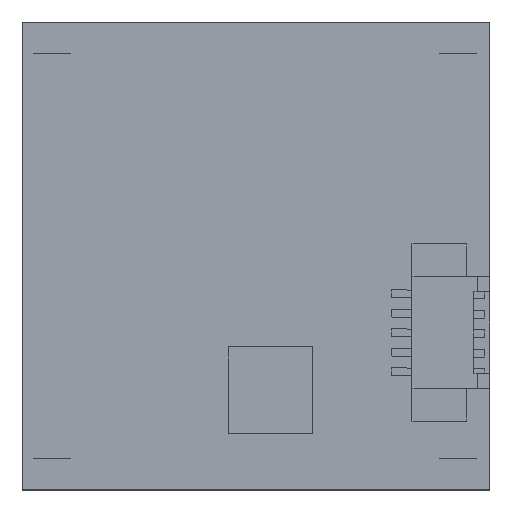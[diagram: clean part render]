
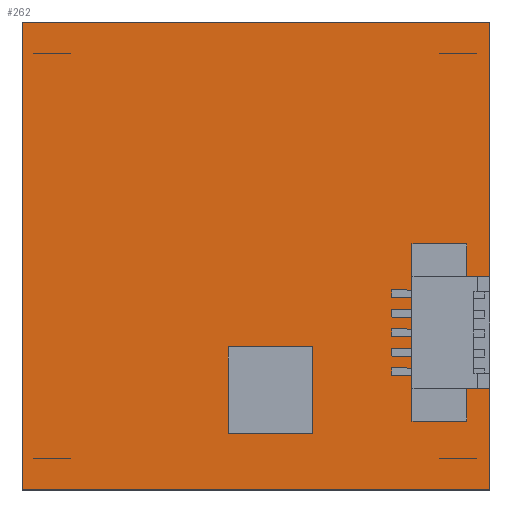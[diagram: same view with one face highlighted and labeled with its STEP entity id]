
A CAD part, top view. The second image highlights one B-rep face of the part: STEP entity #262.
In plain terms, the highlighted planar face has unit normal (0, 0, 1).
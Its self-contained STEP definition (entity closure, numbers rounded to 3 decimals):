
#13=FACE_BOUND('',#493,.T.);
#14=FACE_BOUND('',#494,.T.);
#15=FACE_BOUND('',#495,.T.);
#16=FACE_BOUND('',#496,.T.);
#117=(
BOUNDED_CURVE()
B_SPLINE_CURVE(2,(#6754,#6755,#6756,#6757,#6758),.UNSPECIFIED.,.F.,.F.)
B_SPLINE_CURVE_WITH_KNOTS((3,2,3),(0.,1.885,3.77),
 .UNSPECIFIED.)
CURVE()
GEOMETRIC_REPRESENTATION_ITEM()
RATIONAL_B_SPLINE_CURVE((1.,0.707,1.,0.707,1.))
REPRESENTATION_ITEM('')
);
#119=(
BOUNDED_CURVE()
B_SPLINE_CURVE(2,(#6766,#6767,#6768,#6769,#6770),.UNSPECIFIED.,.F.,.F.)
B_SPLINE_CURVE_WITH_KNOTS((3,2,3),(0.,1.885,3.77),
 .UNSPECIFIED.)
CURVE()
GEOMETRIC_REPRESENTATION_ITEM()
RATIONAL_B_SPLINE_CURVE((1.,0.707,1.,0.707,1.))
REPRESENTATION_ITEM('')
);
#121=(
BOUNDED_CURVE()
B_SPLINE_CURVE(2,(#6778,#6779,#6780,#6781,#6782),.UNSPECIFIED.,.F.,.F.)
B_SPLINE_CURVE_WITH_KNOTS((3,2,3),(0.,1.885,3.77),
 .UNSPECIFIED.)
CURVE()
GEOMETRIC_REPRESENTATION_ITEM()
RATIONAL_B_SPLINE_CURVE((1.,0.707,1.,0.707,1.))
REPRESENTATION_ITEM('')
);
#123=(
BOUNDED_CURVE()
B_SPLINE_CURVE(2,(#6790,#6791,#6792,#6793,#6794),.UNSPECIFIED.,.F.,.F.)
B_SPLINE_CURVE_WITH_KNOTS((3,2,3),(0.,1.885,3.77),
 .UNSPECIFIED.)
CURVE()
GEOMETRIC_REPRESENTATION_ITEM()
RATIONAL_B_SPLINE_CURVE((1.,0.707,1.,0.707,1.))
REPRESENTATION_ITEM('')
);
#125=(
BOUNDED_CURVE()
B_SPLINE_CURVE(2,(#6804,#6805,#6806,#6807,#6808),.UNSPECIFIED.,.F.,.F.)
B_SPLINE_CURVE_WITH_KNOTS((3,2,3),(3.77,5.655,7.54),
 .UNSPECIFIED.)
CURVE()
GEOMETRIC_REPRESENTATION_ITEM()
RATIONAL_B_SPLINE_CURVE((1.,0.707,1.,0.707,1.))
REPRESENTATION_ITEM('')
);
#127=(
BOUNDED_CURVE()
B_SPLINE_CURVE(2,(#6816,#6817,#6818,#6819,#6820),.UNSPECIFIED.,.F.,.F.)
B_SPLINE_CURVE_WITH_KNOTS((3,2,3),(3.77,5.655,7.54),
 .UNSPECIFIED.)
CURVE()
GEOMETRIC_REPRESENTATION_ITEM()
RATIONAL_B_SPLINE_CURVE((1.,0.707,1.,0.707,1.))
REPRESENTATION_ITEM('')
);
#129=(
BOUNDED_CURVE()
B_SPLINE_CURVE(2,(#6828,#6829,#6830,#6831,#6832),.UNSPECIFIED.,.F.,.F.)
B_SPLINE_CURVE_WITH_KNOTS((3,2,3),(3.77,5.655,7.54),
 .UNSPECIFIED.)
CURVE()
GEOMETRIC_REPRESENTATION_ITEM()
RATIONAL_B_SPLINE_CURVE((1.,0.707,1.,0.707,1.))
REPRESENTATION_ITEM('')
);
#131=(
BOUNDED_CURVE()
B_SPLINE_CURVE(2,(#6840,#6841,#6842,#6843,#6844),.UNSPECIFIED.,.F.,.F.)
B_SPLINE_CURVE_WITH_KNOTS((3,2,3),(3.77,5.655,7.54),
 .UNSPECIFIED.)
CURVE()
GEOMETRIC_REPRESENTATION_ITEM()
RATIONAL_B_SPLINE_CURVE((1.,0.707,1.,0.707,1.))
REPRESENTATION_ITEM('')
);
#262=ADVANCED_FACE('',(#377,#13,#14,#15,#16),#1575,.T.);
#377=FACE_OUTER_BOUND('',#492,.T.);
#492=EDGE_LOOP('',(#974,#975,#976,#977));
#493=EDGE_LOOP('',(#978,#979));
#494=EDGE_LOOP('',(#980,#981));
#495=EDGE_LOOP('',(#982,#983));
#496=EDGE_LOOP('',(#984,#985));
#974=ORIENTED_EDGE('',*,*,#1267,.F.);
#975=ORIENTED_EDGE('',*,*,#1268,.F.);
#976=ORIENTED_EDGE('',*,*,#1262,.F.);
#977=ORIENTED_EDGE('',*,*,#1266,.F.);
#978=ORIENTED_EDGE('',*,*,#1285,.F.);
#979=ORIENTED_EDGE('',*,*,#1272,.F.);
#980=ORIENTED_EDGE('',*,*,#1288,.F.);
#981=ORIENTED_EDGE('',*,*,#1275,.F.);
#982=ORIENTED_EDGE('',*,*,#1291,.F.);
#983=ORIENTED_EDGE('',*,*,#1278,.F.);
#984=ORIENTED_EDGE('',*,*,#1294,.F.);
#985=ORIENTED_EDGE('',*,*,#1281,.F.);
#1262=EDGE_CURVE('',#1453,#1459,#2166,.T.);
#1266=EDGE_CURVE('',#1457,#1453,#2170,.T.);
#1267=EDGE_CURVE('',#1458,#1457,#2171,.T.);
#1268=EDGE_CURVE('',#1459,#1458,#2172,.T.);
#1272=EDGE_CURVE('',#1460,#1469,#117,.T.);
#1275=EDGE_CURVE('',#1462,#1471,#119,.T.);
#1278=EDGE_CURVE('',#1464,#1473,#121,.T.);
#1281=EDGE_CURVE('',#1466,#1475,#123,.T.);
#1285=EDGE_CURVE('',#1469,#1460,#125,.T.);
#1288=EDGE_CURVE('',#1471,#1462,#127,.T.);
#1291=EDGE_CURVE('',#1473,#1464,#129,.T.);
#1294=EDGE_CURVE('',#1475,#1466,#131,.T.);
#1453=VERTEX_POINT('',#6707);
#1457=VERTEX_POINT('',#6711);
#1458=VERTEX_POINT('',#6712);
#1459=VERTEX_POINT('',#6713);
#1460=VERTEX_POINT('',#6714);
#1462=VERTEX_POINT('',#6716);
#1464=VERTEX_POINT('',#6718);
#1466=VERTEX_POINT('',#6720);
#1469=VERTEX_POINT('',#6723);
#1471=VERTEX_POINT('',#6725);
#1473=VERTEX_POINT('',#6727);
#1475=VERTEX_POINT('',#6729);
#1575=PLANE('',#2376);
#2166=B_SPLINE_CURVE_WITH_KNOTS('',1,(#6734,#6735),.UNSPECIFIED.,.F.,.F.,
(2,2),(-120.,-90.),.UNSPECIFIED.);
#2170=B_SPLINE_CURVE_WITH_KNOTS('',1,(#6742,#6743),.UNSPECIFIED.,.F.,.F.,
(2,2),(-30.,0.),.UNSPECIFIED.);
#2171=B_SPLINE_CURVE_WITH_KNOTS('',1,(#6744,#6745),.UNSPECIFIED.,.F.,.F.,
(2,2),(-60.,-30.),.UNSPECIFIED.);
#2172=B_SPLINE_CURVE_WITH_KNOTS('',1,(#6746,#6747),.UNSPECIFIED.,.F.,.F.,
(2,2),(-90.,-60.),.UNSPECIFIED.);
#2376=AXIS2_PLACEMENT_3D('',#6696,#2517,$);
#2517=DIRECTION('',(0.,0.,1.));
#6696=CARTESIAN_POINT('',(0.,30.,1.));
#6707=CARTESIAN_POINT('',(30.,30.,1.));
#6711=CARTESIAN_POINT('',(0.,30.,1.));
#6712=CARTESIAN_POINT('',(0.,0.,1.));
#6713=CARTESIAN_POINT('',(30.,0.,1.));
#6714=CARTESIAN_POINT('',(3.137,28.,1.));
#6716=CARTESIAN_POINT('',(3.137,2.,1.));
#6718=CARTESIAN_POINT('',(29.138,2.,1.));
#6720=CARTESIAN_POINT('',(29.138,28.,1.));
#6723=CARTESIAN_POINT('',(0.737,28.,1.));
#6725=CARTESIAN_POINT('',(0.737,2.,1.));
#6727=CARTESIAN_POINT('',(26.738,2.,1.));
#6729=CARTESIAN_POINT('',(26.738,28.,1.));
#6734=CARTESIAN_POINT('',(30.,30.,1.));
#6735=CARTESIAN_POINT('',(30.,0.,1.));
#6742=CARTESIAN_POINT('',(0.,30.,1.));
#6743=CARTESIAN_POINT('',(30.,30.,1.));
#6744=CARTESIAN_POINT('',(0.,0.,1.));
#6745=CARTESIAN_POINT('',(0.,30.,1.));
#6746=CARTESIAN_POINT('',(30.,0.,1.));
#6747=CARTESIAN_POINT('',(0.,0.,1.));
#6754=CARTESIAN_POINT('',(3.137,28.,1.));
#6755=CARTESIAN_POINT('',(3.138,29.2,1.));
#6756=CARTESIAN_POINT('',(1.937,29.2,1.));
#6757=CARTESIAN_POINT('',(0.737,29.2,1.));
#6758=CARTESIAN_POINT('',(0.737,28.,1.));
#6766=CARTESIAN_POINT('',(3.137,2.,1.));
#6767=CARTESIAN_POINT('',(3.138,3.2,1.));
#6768=CARTESIAN_POINT('',(1.937,3.2,1.));
#6769=CARTESIAN_POINT('',(0.737,3.2,1.));
#6770=CARTESIAN_POINT('',(0.737,2.,1.));
#6778=CARTESIAN_POINT('',(29.138,2.,1.));
#6779=CARTESIAN_POINT('',(29.138,3.2,1.));
#6780=CARTESIAN_POINT('',(27.938,3.2,1.));
#6781=CARTESIAN_POINT('',(26.738,3.2,1.));
#6782=CARTESIAN_POINT('',(26.738,2.,1.));
#6790=CARTESIAN_POINT('',(29.138,28.,1.));
#6791=CARTESIAN_POINT('',(29.138,29.2,1.));
#6792=CARTESIAN_POINT('',(27.938,29.2,1.));
#6793=CARTESIAN_POINT('',(26.738,29.2,1.));
#6794=CARTESIAN_POINT('',(26.738,28.,1.));
#6804=CARTESIAN_POINT('',(0.737,28.,1.));
#6805=CARTESIAN_POINT('',(0.737,26.8,1.));
#6806=CARTESIAN_POINT('',(1.937,26.8,1.));
#6807=CARTESIAN_POINT('',(3.138,26.8,1.));
#6808=CARTESIAN_POINT('',(3.137,28.,1.));
#6816=CARTESIAN_POINT('',(0.737,2.,1.));
#6817=CARTESIAN_POINT('',(0.737,0.8,1.));
#6818=CARTESIAN_POINT('',(1.937,0.8,1.));
#6819=CARTESIAN_POINT('',(3.138,0.8,1.));
#6820=CARTESIAN_POINT('',(3.137,2.,1.));
#6828=CARTESIAN_POINT('',(26.738,2.,1.));
#6829=CARTESIAN_POINT('',(26.738,0.8,1.));
#6830=CARTESIAN_POINT('',(27.938,0.8,1.));
#6831=CARTESIAN_POINT('',(29.138,0.8,1.));
#6832=CARTESIAN_POINT('',(29.138,2.,1.));
#6840=CARTESIAN_POINT('',(26.738,28.,1.));
#6841=CARTESIAN_POINT('',(26.738,26.8,1.));
#6842=CARTESIAN_POINT('',(27.938,26.8,1.));
#6843=CARTESIAN_POINT('',(29.138,26.8,1.));
#6844=CARTESIAN_POINT('',(29.138,28.,1.));
